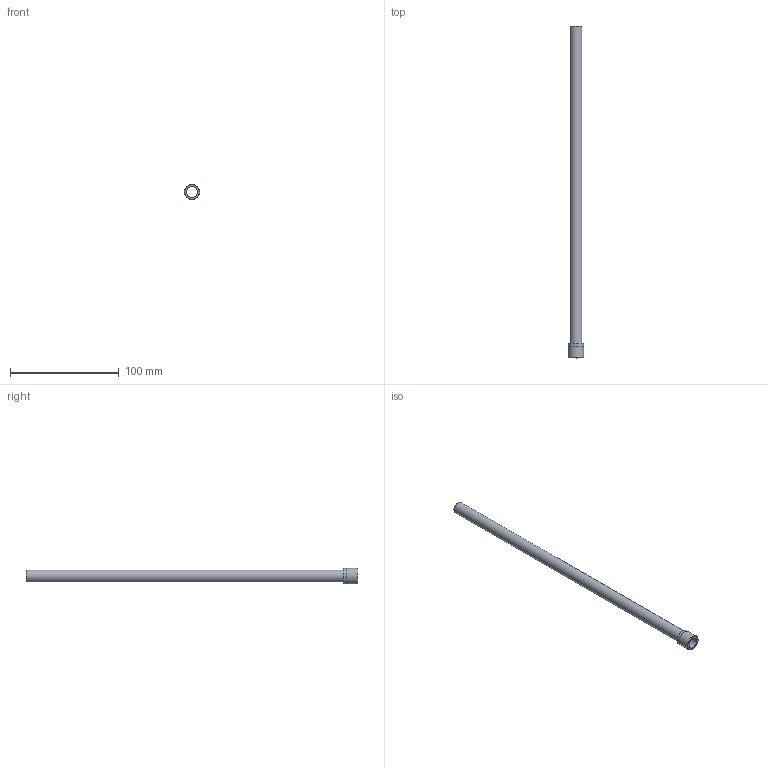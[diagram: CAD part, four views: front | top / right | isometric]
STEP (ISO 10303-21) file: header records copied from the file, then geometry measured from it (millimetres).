
FILE_DESCRIPTION(/* description */ (''),/* implementation_level */ '2;1');
FILE_NAME(/* name */ 'C:/Users/drich/Desktop/JHF437T-12 v1.step',/* time_stamp */ '2020-01-02T19:59:38-06:00',/* author */ (''),/* organization */ (''),/* preprocessor_version */ 'ST-DEVELOPER v18',/* originating_system */ 'Autodesk Translation Framework v8.12.0.6',/* authorisation */ '');
FILE_SCHEMA (('AUTOMOTIVE_DESIGN { 1 0 10303 214 3 1 1 }'));
Length unit declared in the file: inch
Products named in the file (1): JHF437T-12
Bounding box: 14.33 x 304.8 x 14.33 mm (x, y, z)
Volume: 4704.7 mm3; surface area: 20329.2 mm2
Topology: 1 solids, 1 shells, 10 faces, 24 edges, 18 vertices
Faces by surface type: cylinder 4, plane 4, cone 1, torus 1
Full cylindrical faces by diameter (mm): 10.084 x1, 10.846 x1, 14.176 x1, 14.326 x1
Entity records: 354 total; most frequent: DIRECTION 65, CARTESIAN_POINT 53, ORIENTED_EDGE 48, AXIS2_PLACEMENT_3D 30, EDGE_CURVE 24, CIRCLE 19, VERTEX_POINT 18, EDGE_LOOP 14
